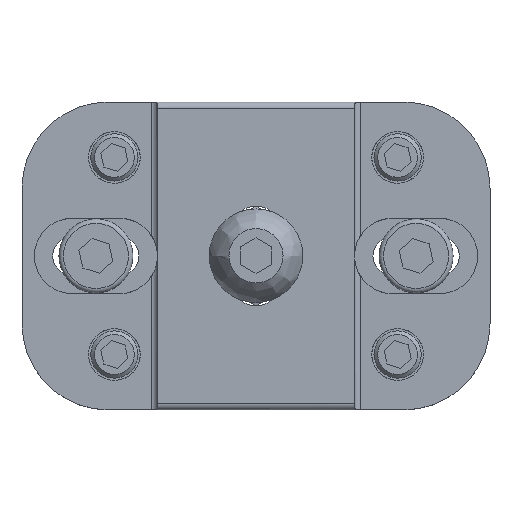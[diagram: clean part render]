
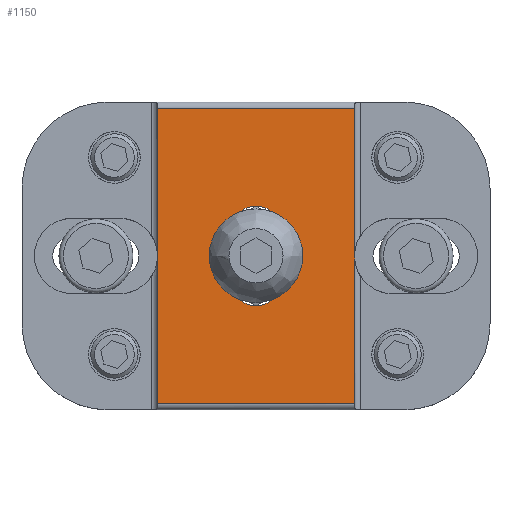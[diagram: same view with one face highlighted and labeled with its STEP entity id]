
A CAD part, top view. The second image highlights one B-rep face of the part: STEP entity #1150.
In plain terms, the highlighted planar face has unit normal (0, 0, 1).
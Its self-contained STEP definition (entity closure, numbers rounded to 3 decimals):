
#774=CIRCLE('',#4618,2.05);
#776=CIRCLE('',#4622,2.05);
#918=FACE_BOUND('',#1667,.T.);
#919=FACE_BOUND('',#1668,.T.);
#1150=ADVANCED_FACE('MANIFOLD_SOLID_BREP #40',(#918,#919),#1341,.T.);
#1341=PLANE('',#4632);
#1667=EDGE_LOOP('',(#2044,#2045,#2046,#2047,#2048,#2049,#2050,#2051,#2052,
#2053));
#1668=EDGE_LOOP('',(#2054,#2055,#2056,#2057));
#2044=ORIENTED_EDGE('',*,*,#3480,.T.);
#2045=ORIENTED_EDGE('',*,*,#3452,.T.);
#2046=ORIENTED_EDGE('',*,*,#3457,.T.);
#2047=ORIENTED_EDGE('',*,*,#3456,.T.);
#2048=ORIENTED_EDGE('',*,*,#3384,.T.);
#2049=ORIENTED_EDGE('',*,*,#3389,.T.);
#2050=ORIENTED_EDGE('',*,*,#3446,.T.);
#2051=ORIENTED_EDGE('',*,*,#3381,.T.);
#2052=ORIENTED_EDGE('',*,*,#3380,.T.);
#2053=ORIENTED_EDGE('',*,*,#3481,.T.);
#2054=ORIENTED_EDGE('',*,*,#3466,.T.);
#2055=ORIENTED_EDGE('',*,*,#3468,.F.);
#2056=ORIENTED_EDGE('',*,*,#3459,.F.);
#2057=ORIENTED_EDGE('',*,*,#3463,.F.);
#3007=VERTEX_POINT('',#6201);
#3008=VERTEX_POINT('',#6203);
#3009=VERTEX_POINT('',#6205);
#3011=VERTEX_POINT('',#6220);
#3012=VERTEX_POINT('',#6221);
#3016=VERTEX_POINT('',#6249);
#3067=VERTEX_POINT('',#6576);
#3068=VERTEX_POINT('',#6578);
#3070=VERTEX_POINT('',#6602);
#3072=VERTEX_POINT('',#6607);
#3073=VERTEX_POINT('',#6609);
#3075=VERTEX_POINT('',#6615);
#3078=VERTEX_POINT('',#6622);
#3089=VERTEX_POINT('',#6651);
#3380=EDGE_CURVE('',#3008,#3007,#3909,.T.);
#3381=EDGE_CURVE('',#3009,#3008,#3910,.T.);
#3384=EDGE_CURVE('',#3011,#3012,#3912,.T.);
#3389=EDGE_CURVE('',#3012,#3016,#3914,.T.);
#3446=EDGE_CURVE('',#3016,#3009,#3939,.T.);
#3452=EDGE_CURVE('',#3068,#3067,#3942,.T.);
#3456=EDGE_CURVE('',#3070,#3011,#3944,.T.);
#3457=EDGE_CURVE('',#3067,#3070,#3945,.T.);
#3459=EDGE_CURVE('',#3072,#3073,#3947,.T.);
#3463=EDGE_CURVE('',#3075,#3072,#774,.T.);
#3466=EDGE_CURVE('',#3075,#3078,#3952,.T.);
#3468=EDGE_CURVE('',#3073,#3078,#776,.T.);
#3480=EDGE_CURVE('',#3089,#3068,#3958,.T.);
#3481=EDGE_CURVE('',#3007,#3089,#3959,.T.);
#3909=LINE('',#6202,#4243);
#3910=LINE('',#6204,#4244);
#3912=LINE('',#6219,#4246);
#3914=LINE('',#6250,#4248);
#3939=LINE('',#6553,#4273);
#3942=LINE('',#6577,#4276);
#3944=LINE('',#6601,#4278);
#3945=LINE('',#6603,#4279);
#3947=LINE('',#6608,#4281);
#3952=LINE('',#6623,#4286);
#3958=LINE('',#6650,#4292);
#3959=LINE('',#6652,#4293);
#4243=VECTOR('',#4987,1.);
#4244=VECTOR('',#4988,1.);
#4246=VECTOR('',#4992,1.);
#4248=VECTOR('',#4994,1.);
#4273=VECTOR('',#5097,1.);
#4276=VECTOR('',#5106,1.);
#4278=VECTOR('',#5110,1.);
#4279=VECTOR('',#5111,1.);
#4281=VECTOR('',#5115,1.);
#4286=VECTOR('',#5128,1.);
#4292=VECTOR('',#5156,1.);
#4293=VECTOR('',#5157,1.);
#4618=AXIS2_PLACEMENT_3D('',#6617,#5121,#5122);
#4622=AXIS2_PLACEMENT_3D('',#6626,#5132,#5133);
#4632=AXIS2_PLACEMENT_3D('',#6653,#5158,#5159);
#4987=DIRECTION('',(0.,1.,0.));
#4988=DIRECTION('',(0.,1.,0.));
#4992=DIRECTION('',(0.,-1.,0.));
#4994=DIRECTION('',(0.,-1.,0.));
#5097=DIRECTION('',(1.,0.,0.));
#5106=DIRECTION('',(-1.,0.,0.));
#5110=DIRECTION('',(0.,-1.,0.));
#5111=DIRECTION('',(0.,-1.,0.));
#5115=DIRECTION('',(0.,1.,0.));
#5121=DIRECTION('',(0.,0.,1.));
#5122=DIRECTION('',(1.,0.,0.));
#5128=DIRECTION('',(0.,1.,0.));
#5132=DIRECTION('',(0.,0.,1.));
#5133=DIRECTION('',(1.,0.,0.));
#5156=DIRECTION('',(0.,1.,0.));
#5157=DIRECTION('',(0.,1.,0.));
#5158=DIRECTION('',(0.,0.,1.));
#5159=DIRECTION('',(1.,0.,0.));
#6201=CARTESIAN_POINT('',(8.,0.,0.));
#6202=CARTESIAN_POINT('',(8.,15.8,0.));
#6203=CARTESIAN_POINT('',(8.,-1.157,0.));
#6204=CARTESIAN_POINT('',(8.,15.8,0.));
#6205=CARTESIAN_POINT('',(8.,-12.,0.));
#6219=CARTESIAN_POINT('',(-8.,15.8,0.));
#6220=CARTESIAN_POINT('',(-8.,0.,0.));
#6221=CARTESIAN_POINT('',(-8.,-1.157,0.));
#6249=CARTESIAN_POINT('',(-8.,-12.,0.));
#6250=CARTESIAN_POINT('',(-8.,-6.578,0.));
#6553=CARTESIAN_POINT('',(0.,-12.,0.));
#6576=CARTESIAN_POINT('',(-8.,12.,0.));
#6577=CARTESIAN_POINT('',(0.,12.,0.));
#6578=CARTESIAN_POINT('',(8.,12.,0.));
#6601=CARTESIAN_POINT('',(-8.,15.8,0.));
#6602=CARTESIAN_POINT('',(-8.,1.157,0.));
#6603=CARTESIAN_POINT('',(-8.,6.578,0.));
#6607=CARTESIAN_POINT('',(2.05,-2.,0.));
#6608=CARTESIAN_POINT('',(2.05,0.,0.));
#6609=CARTESIAN_POINT('',(2.05,2.,0.));
#6615=CARTESIAN_POINT('',(-2.05,-2.,0.));
#6617=CARTESIAN_POINT('',(0.,-2.,0.));
#6622=CARTESIAN_POINT('',(-2.05,2.,0.));
#6623=CARTESIAN_POINT('',(-2.05,0.,0.));
#6626=CARTESIAN_POINT('',(0.,2.,0.));
#6650=CARTESIAN_POINT('',(8.,15.8,0.));
#6651=CARTESIAN_POINT('',(8.,1.157,0.));
#6652=CARTESIAN_POINT('',(8.,15.8,0.));
#6653=CARTESIAN_POINT('',(9.5,-3.,0.));
